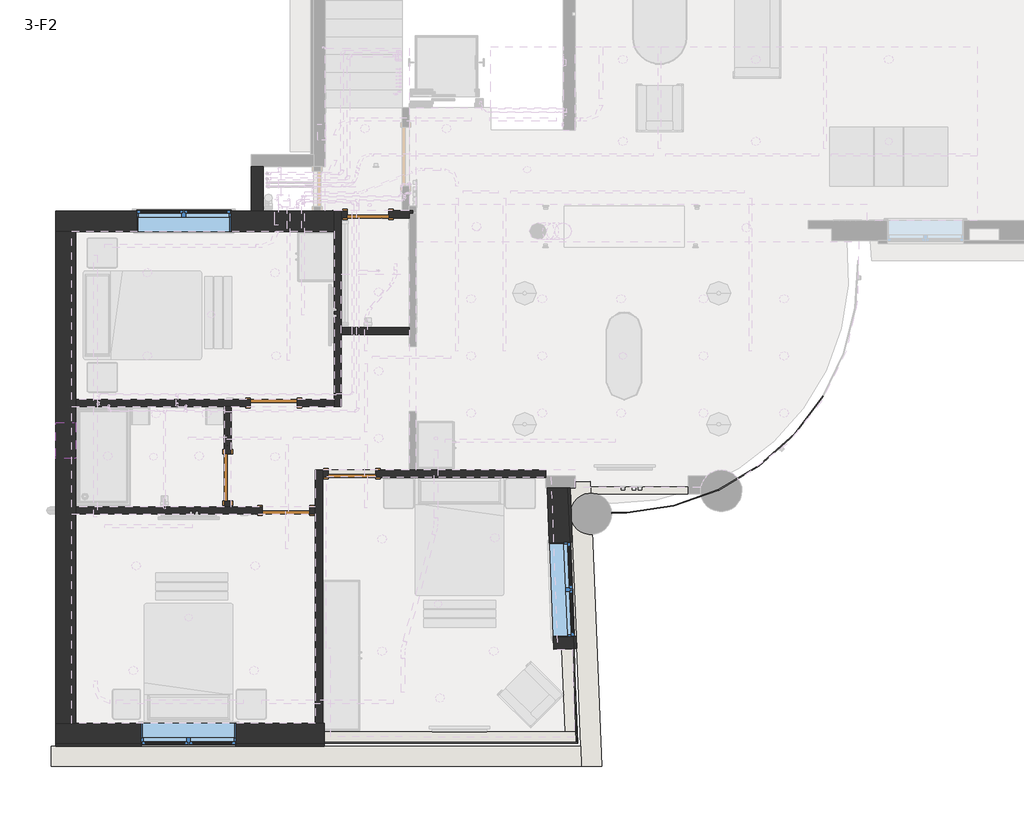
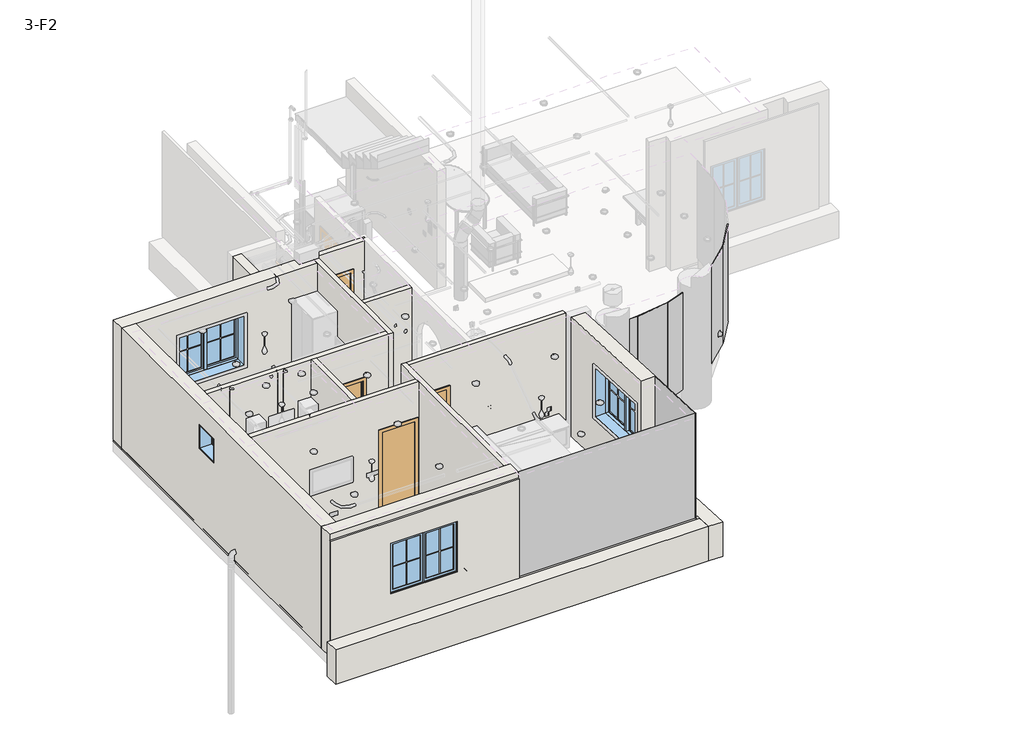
# One storey, part 1 of 12: 20 walls, 8 plates, 5 doors, 4 windows.
"""IFC4 building model written with IfcOpenShell, lengths in millimetres."""

from ifc_helpers import new_model, si_unit, frame, origin, place, context, project, spatial, polyline, circle_curve, outline, extrude, faceted_brep, transform, mapped, element, save
from ifc_brep_helpers import plane_surface, cylinder_surface, advanced_brep
from components import m_single_flush_0700x_2400_7219f577, m_single_flush_0800x_2134mm_6a6e6414, m_single_flush_0800x_2134mm_a76977ee, system_panel_glazed_f5efb3f4, system_panel_glazed_7791b898, system_panel_glazed_ef369acb, system_panel_glazed_fcb7b072, m_fixed_0610_x_0610mm_aedfc229, m_window_casement_double_1600_x_1300mm_8a1cf402

model = new_model("IFC4")

# Units and contexts
model_context = context("Model", 3, world=origin())
ifc_project = project(units=[si_unit("LENGTHUNIT", "METRE", prefix="MILLI")], contexts=[model_context])

# Site, building, storey
site = spatial("IfcSite", under=ifc_project)
building = spatial("IfcBuilding", under=site)
storey = spatial("IfcBuildingStorey", under=building, Name="3-F2", Elevation=6550.0)

# Doors
placement = place(None, origin())
m_single_flush_0700x_2400_shape = m_single_flush_0700x_2400_7219f577(model_context)
element("IfcDoor", 1, ObjectType="M_Single-Flush : 0700x 2400", at=placement, inside=storey, context=model_context, shape_type="MappedRepresentation", body=[
    mapped(m_single_flush_0700x_2400_shape, transform((-4137.4765921, 3274.4560655, 6550.0), x_axis=(-1.0, 0.0, 0.0), y_axis=(0.0, -1.0, 0.0), z_axis=(0.0, 0.0, 1.0))),
])
m_single_flush_0800x_2134mm_shape = m_single_flush_0800x_2134mm_6a6e6414(model_context)
element("IfcDoor", 2, ObjectType="M_Single-Flush : 0800x 2134mm", at=placement, inside=storey, context=model_context, shape_type="MappedRepresentation", body=[
    mapped(m_single_flush_0800x_2134mm_shape, transform((-5732.2814219, 80.1275048, 6550.0), x_axis=(1.0, 0.0, 0.0), y_axis=(0.0, 1.0, 0.0), z_axis=(0.0, 0.0, 1.0))),
])
element("IfcDoor", 3, ObjectType="M_Single-Flush : 0800x 2134mm", at=placement, inside=storey, context=model_context, shape_type="MappedRepresentation", body=[
    mapped(m_single_flush_0800x_2134mm_shape, transform((-4405.4457195, -1117.1632352, 6600.0), x_axis=(-1.0, 0.0, 0.0), y_axis=(0.0, -1.0, 0.0), z_axis=(0.0, 0.0, 1.0))),
])
m_single_flush_0800x_2134mm_2_shape = m_single_flush_0800x_2134mm_a76977ee(model_context)
element("IfcDoor", 4, ObjectType="M_Single-Flush : 0800x 2134mm", at=placement, inside=storey, context=model_context, shape_type="MappedRepresentation", body=[
    mapped(m_single_flush_0800x_2134mm_2_shape, transform((-5525.4457195, -1739.8724951, 6550.0), x_axis=(1.0, 0.0, 0.0), y_axis=(0.0, 1.0, 0.0), z_axis=(0.0, 0.0, 1.0))),
])
element("IfcDoor", 5, ObjectType="M_Single-Flush : 0800x 2134mm", at=placement, inside=storey, context=model_context, shape_type="MappedRepresentation", body=[
    mapped(m_single_flush_0800x_2134mm_2_shape, transform((-6509.7814219, -1179.8724951, 6550.0), x_axis=(0.0, -1.0, 0.0), y_axis=(1.0, 0.0, 0.0), z_axis=(0.0, 0.0, 1.0))),
])

# Plates
system_panel_glazed_shape = system_panel_glazed_f5efb3f4(model_context)
element("IfcPlate", 6, ObjectType="System Panel : Glazed", at=placement, inside=storey, context=model_context, shape_type="MappedRepresentation", body=[
    mapped(system_panel_glazed_shape, transform((3312.4238011, -119.0628535, 6980.0), x_axis=(-0.6003448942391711, -0.7997412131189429, 0.0), y_axis=(0.7997412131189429, -0.6003448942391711, 0.0), z_axis=(0.0, 0.0, 1.0))),
])
element("IfcPlate", 7, ObjectType="System Panel : Glazed", at=placement, inside=storey, context=model_context, shape_type="MappedRepresentation", body=[
    mapped(system_panel_glazed_shape, transform((2774.7211477, -706.2704906, 6980.0), x_axis=(-0.7439117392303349, -0.6682778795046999, 0.0), y_axis=(0.6682778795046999, -0.7439117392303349, 0.0), z_axis=(0.0, 0.0, 1.0))),
])
element("IfcPlate", 8, ObjectType="System Panel : Glazed", at=placement, inside=storey, context=model_context, shape_type="MappedRepresentation", body=[
    mapped(system_panel_glazed_shape, transform((2133.4409489, -1178.1779594, 6980.0), x_axis=(-0.8592887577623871, -0.5114907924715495, 0.0), y_axis=(0.5114907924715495, -0.8592887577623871, 0.0), z_axis=(0.0, 0.0, 1.0))),
])
element("IfcPlate", 9, ObjectType="System Panel : Glazed", at=placement, inside=storey, context=model_context, shape_type="MappedRepresentation", body=[
    mapped(system_panel_glazed_shape, transform((1412.8839068, -1516.9027761, 6980.0), x_axis=(-0.9421038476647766, -0.3353212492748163, 0.0), y_axis=(0.3353212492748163, -0.9421038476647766, 0.0), z_axis=(0.0, 0.0, 1.0))),
])
element("IfcPlate", 10, ObjectType="System Panel : Glazed", at=placement, inside=storey, context=model_context, shape_type="MappedRepresentation", body=[
    mapped(system_panel_glazed_shape, transform((640.3548437, -1709.6092865, 6980.0), x_axis=(-0.9892188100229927, -0.14644502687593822, 0.0), y_axis=(0.14644502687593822, -0.9892188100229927, 0.0), z_axis=(0.0, 0.0, 1.0))),
])
system_panel_glazed_2_shape = system_panel_glazed_7791b898(model_context)
element("IfcPlate", 11, ObjectType="System Panel : Glazed", at=placement, inside=storey, context=model_context, shape_type="MappedRepresentation", body=[
    mapped(system_panel_glazed_2_shape, transform((115.9480298, -1770.5245484, 6980.0), x_axis=(-0.9998351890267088, -0.01815474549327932, 0.0), y_axis=(0.01815474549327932, -0.9998351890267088, 0.0), z_axis=(0.0, 0.0, 1.0))),
])
system_panel_glazed_3_shape = system_panel_glazed_ef369acb(model_context)
element("IfcPlate", 12, ObjectType="System Panel : Glazed", at=placement, inside=storey, context=model_context, shape_type="MappedRepresentation", body=[
    mapped(system_panel_glazed_3_shape, transform((-2736.9114959, -5684.0873245, 6980.0), x_axis=(1.0, 0.0, 0.0), y_axis=(0.0, 1.0, 0.0), z_axis=(0.0, 0.0, 1.0))),
])
system_panel_glazed_4_shape = system_panel_glazed_fcb7b072(model_context)
element("IfcPlate", 13, ObjectType="System Panel : Glazed", at=placement, inside=storey, context=model_context, shape_type="MappedRepresentation", body=[
    mapped(system_panel_glazed_4_shape, transform((-621.2194758, -4881.8145595, 6980.0), x_axis=(-0.02846033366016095, 0.9995949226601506, 0.0), y_axis=(-0.9995949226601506, -0.02846033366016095, 0.0), z_axis=(0.0, 0.0, 1.0))),
])

# Walls
element("IfcWall", 14, ObjectType="34cm", at=placement, inside=storey, context=model_context, shape_type="Brep", body=[
    faceted_brep([(-4707.4765921, 3326.4863231, 6550.0), (-4937.4765921, 3326.4863231, 6550.0), (-5057.4765921, 3326.4863231, 6550.0), (-9417.4765921, 3326.4863231, 6550.0), (-9417.4765921, 3326.4863231, 9650.0), (-5057.4765921, 3326.4863231, 9650.0), (-4937.4765921, 3326.4863231, 9650.0), (-4707.4765921, 3326.4863231, 9650.0), (-6453.1495072, 3326.4863231, 8950.0), (-8053.1495072, 3326.4863231, 8950.0), (-8053.1495072, 3326.4863231, 7660.0), (-6453.1495072, 3326.4863231, 7660.0), (-4707.4765921, 2986.4863231, 6550.0), (-4707.4765921, 2986.4863231, 9650.0), (-9077.4765921, 2986.4863231, 9650.0), (-9417.4765921, 2986.4863231, 9650.0), (-9417.4765921, 2986.4863231, 6550.0), (-9077.4765921, 2986.4863231, 6550.0), (-6453.1495072, 2986.4863231, 8950.0), (-6453.1495072, 2986.4863231, 7660.0), (-8053.1495072, 2986.4863231, 7660.0), (-8053.1495072, 2986.4863231, 8950.0)], [[[0, 1, 2, 3, 4, 5, 6, 7], [8, 9, 10, 11]], [[12, 13, 14, 15, 16, 17], [18, 19, 20, 21]], [[3, 2, 1, 0, 12, 17, 16]], [[7, 6, 5, 4, 15, 14, 13]], [[0, 7, 13, 12]], [[18, 21, 9, 8]], [[21, 20, 10, 9]], [[20, 19, 11, 10]], [[19, 18, 8, 11]], [[4, 3, 16, 15]]]),
])
element("IfcWall", 15, ObjectType="34cm", at=placement, inside=storey, context=model_context, shape_type="Brep", body=[
    faceted_brep([(-652.9165886, -4079.8954804, 9650.0), (-652.9165886, -4079.8954804, 9450.0), (-652.9165886, -4079.8954804, 6980.0), (-652.9165886, -4079.8954804, 6550.0), (-761.6689188, -1357.1632352, 6550.0), (-761.6689188, -1357.1632352, 9650.0), (-661.0995249, -3875.0268177, 7660.0), (-661.0995249, -3875.0268177, 8950.0), (-724.9563703, -2276.3016058, 8950.0), (-724.9563703, -2276.3016058, 7660.0), (-992.6456961, -4093.46506, 6550.0), (-992.6456961, -4093.46506, 9650.0), (-1101.9400272, -1357.1632352, 9650.0), (-1101.9400272, -1357.1632352, 6550.0), (-1000.8286324, -3888.5963973, 8950.0), (-1000.8286324, -3888.5963973, 7660.0), (-1064.6854778, -2289.8711854, 7660.0), (-1064.6854778, -2289.8711854, 8950.0), (-852.7572401, -4087.8775861, 6550.0)], [[[0, 1, 2, 3, 4, 5], [6, 7, 8, 9]], [[10, 11, 12, 13], [14, 15, 16, 17]], [[3, 18, 10, 13, 4]], [[11, 0, 5, 12]], [[3, 2, 1, 0, 11, 10, 18]], [[15, 14, 7, 6]], [[16, 15, 6, 9]], [[17, 16, 9, 8]], [[14, 17, 8, 7]], [[5, 4, 13, 12]]]),
])
element("IfcWall", 16, ObjectType="34cm", at=placement, inside=storey, context=model_context, shape_type="Brep", body=[
    faceted_brep([(-9417.4765921, -5684.0873245, 6550.0), (-4875.4457195, -5684.0873245, 6550.0), (-4875.4457195, -5684.0873245, 9507.0), (-4875.4457195, -5684.0873245, 9650.0), (-9417.4765921, -5684.0873245, 9650.0), (-9417.4765921, -5684.0873245, 9507.0), (-7971.1184738, -5684.0873245, 7660.0), (-7971.1184738, -5684.0873245, 8950.0), (-6371.1184738, -5684.0873245, 8950.0), (-6371.1184738, -5684.0873245, 7660.0), (-4875.4457195, -5344.0873245, 6550.0), (-9077.4765921, -5344.0873245, 6550.0), (-9417.4765921, -5344.0873245, 6550.0), (-9417.4765921, -5344.0873245, 9650.0), (-9077.4765921, -5344.0873245, 9650.0), (-4875.4457195, -5344.0873245, 9650.0), (-7971.1184738, -5344.0873245, 8950.0), (-7971.1184738, -5344.0873245, 7660.0), (-6371.1184738, -5344.0873245, 7660.0), (-6371.1184738, -5344.0873245, 8950.0), (-5945.4457195, -5344.0873245, 7320.0), (-5945.4457195, -5344.0873245, 7380.0), (-6005.4457195, -5344.0873245, 7380.0), (-6005.4457195, -5344.0873245, 7320.0), (-8295.704747, -5344.0873245, 6970.0), (-8295.704747, -5344.0873245, 7030.0), (-8355.704747, -5344.0873245, 7030.0), (-8355.704747, -5344.0873245, 6970.0), (-6042.4765921, -5344.0873245, 7320.0), (-6042.4765921, -5344.0873245, 7380.0), (-6102.4765921, -5344.0873245, 7380.0), (-6102.4765921, -5344.0873245, 7320.0), (-6059.7814219, -5344.0873245, 7220.0), (-6059.7814219, -5344.0873245, 7280.0), (-6119.7814219, -5344.0873245, 7280.0), (-6119.7814219, -5344.0873245, 7220.0), (-4875.4457195, -5484.0873245, 6550.0), (-5945.4457195, -5394.0873245, 7320.0), (-6005.4457195, -5394.0873245, 7320.0), (-6005.4457195, -5394.0873245, 7380.0), (-5945.4457195, -5394.0873245, 7380.0), (-8295.704747, -5394.0873245, 6970.0), (-8355.704747, -5394.0873245, 6970.0), (-8355.704747, -5394.0873245, 7030.0), (-8295.704747, -5394.0873245, 7030.0), (-6042.4765921, -5394.0873245, 7320.0), (-6102.4765921, -5394.0873245, 7320.0), (-6102.4765921, -5394.0873245, 7380.0), (-6042.4765921, -5394.0873245, 7380.0), (-6059.7814219, -5394.0873245, 7220.0), (-6119.7814219, -5394.0873245, 7220.0), (-6119.7814219, -5394.0873245, 7280.0), (-6059.7814219, -5394.0873245, 7280.0)], [[[0, 1, 2, 3, 4, 5], [6, 7, 8, 9]], [[10, 11, 12, 13, 14, 15], [16, 17, 18, 19], [20, 21, 22, 23], [24, 25, 26, 27], [28, 29, 30, 31], [32, 33, 34, 35]], [[1, 0, 12, 11, 10, 36]], [[3, 2, 1, 36, 10, 15]], [[4, 3, 15, 14, 13]], [[17, 16, 7, 6]], [[18, 17, 6, 9]], [[19, 18, 9, 8]], [[16, 19, 8, 7]], [[37, 38, 39, 40]], [[37, 40, 21, 20]], [[40, 39, 22, 21]], [[39, 38, 23, 22]], [[38, 37, 20, 23]], [[41, 42, 43, 44]], [[41, 44, 25, 24]], [[44, 43, 26, 25]], [[43, 42, 27, 26]], [[42, 41, 24, 27]], [[45, 46, 47, 48]], [[45, 48, 29, 28]], [[48, 47, 30, 29]], [[47, 46, 31, 30]], [[46, 45, 28, 31]], [[49, 50, 51, 52]], [[49, 52, 33, 32]], [[52, 51, 34, 33]], [[51, 50, 35, 34]], [[50, 49, 32, 35]], [[0, 5, 4, 13, 12]]]),
])
element("IfcWall", 17, ObjectType="34cm", at=placement, inside=storey, context=model_context, shape_type="SweptSolid", body=[
    extrude(outline(polyline([(2986.4863231, 6550.0), (-5344.0873245, 6550.0), (-5344.0873245, 9650.0), (2986.4863231, 9650.0), (2986.4863231, 6550.0)]), holes=[polyline([(-250.6629275, 8550.0), (-250.6629275, 9160.0), (-860.6629275, 9160.0), (-860.6629275, 8550.0), (-250.6629275, 8550.0)])]), frame((-9417.4765921, 0.0, 0.0), z_axis=(1.0, 0.0, 0.0), x_axis=(0.0, 1.0, 0.0)), (0.0, 0.0, 1.0), 340.0),
])
element("IfcWall", 18, ObjectType="Generic - 200 balcony", at=placement, inside=storey, context=model_context, shape_type="Brep", body=[
    faceted_brep([(-596.8298635, -5484.0873245, 6550.0), (-796.989339, -5484.0873245, 6550.0), (-4875.4457195, -5484.0873245, 6550.0), (-4875.4457195, -5484.0873245, 6980.0), (-796.989339, -5484.0873245, 6980.0), (-596.8298635, -5484.0873245, 6980.0), (-2492.6151583, -5484.0873245, 6820.0), (-2492.6151583, -5484.0873245, 6880.0), (-2552.6151583, -5484.0873245, 6880.0), (-2552.6151583, -5484.0873245, 6820.0), (-2701.9457195, -5484.0873245, 6820.0), (-2701.9457195, -5484.0873245, 6880.0), (-2761.9457195, -5484.0873245, 6880.0), (-2761.9457195, -5484.0873245, 6820.0), (-2390.4457195, -5484.0873245, 6820.0), (-2390.4457195, -5484.0873245, 6880.0), (-2450.4457195, -5484.0873245, 6880.0), (-2450.4457195, -5484.0873245, 6820.0), (-4875.4457195, -5684.0873245, 6550.0), (-588.841393, -5684.0873245, 6550.0), (-588.841393, -5684.0873245, 6980.0), (-4875.4457195, -5684.0873245, 6980.0), (-2492.6151583, -5534.0873245, 6820.0), (-2552.6151583, -5534.0873245, 6820.0), (-2552.6151583, -5534.0873245, 6880.0), (-2492.6151583, -5534.0873245, 6880.0), (-2701.9457195, -5534.0873245, 6820.0), (-2761.9457195, -5534.0873245, 6820.0), (-2761.9457195, -5534.0873245, 6880.0), (-2701.9457195, -5534.0873245, 6880.0), (-2390.4457195, -5534.0873245, 6820.0), (-2450.4457195, -5534.0873245, 6820.0), (-2450.4457195, -5534.0873245, 6880.0), (-2390.4457195, -5534.0873245, 6880.0)], [[[0, 1, 2, 3, 4, 5], [6, 7, 8, 9], [10, 11, 12, 13], [14, 15, 16, 17]], [[18, 19, 20, 21]], [[2, 1, 0, 19, 18]], [[3, 2, 18, 21]], [[5, 4, 3, 21, 20]], [[22, 23, 24, 25]], [[22, 25, 7, 6]], [[25, 24, 8, 7]], [[24, 23, 9, 8]], [[23, 22, 6, 9]], [[26, 27, 28, 29]], [[26, 29, 11, 10]], [[29, 28, 12, 11]], [[28, 27, 13, 12]], [[27, 26, 10, 13]], [[30, 31, 32, 33]], [[30, 33, 15, 14]], [[33, 32, 16, 15]], [[32, 31, 17, 16]], [[31, 30, 14, 17]], [[0, 5, 20, 19]]]),
])
element("IfcWall", 19, ObjectType="Generic - 200 balcony", at=placement, inside=storey, context=model_context, shape_type="SweptSolid", body=[
    extrude(outline(polyline([(-652.9165886, -4079.8954804), (-596.8298635, -5484.0873245), (-796.989339, -5484.0873245), (-852.7572401, -4087.8775861), (-652.9165886, -4079.8954804)])), frame((0.0, 0.0, 6550.0), z_axis=(0.0, 0.0, 1.0), x_axis=(1.0, 0.0, 0.0)), (0.0, 0.0, 1.0), 430.0),
])
element("IfcWall", 20, ObjectType="Generic - 200mm", at=placement, inside=storey, context=model_context, shape_type="SweptSolid", body=[
    extrude(outline(polyline([(-6107.4765921, 3326.4863231), (-6107.4765921, 4084.4560655), (-5907.4765921, 4084.4560655), (-5907.4765921, 3326.4863231), (-6107.4765921, 3326.4863231)])), frame((0.0, 0.0, 6550.0), z_axis=(0.0, 0.0, 1.0), x_axis=(1.0, 0.0, 0.0)), (0.0, 0.0, 1.0), 3100.0),
])
element("IfcWall", 21, ObjectType="Generic -120mm", at=placement, inside=storey, context=model_context, shape_type="AdvancedBrep", body=[
    advanced_brep(
    [(1641.0946891, -1340.2773764, 6550.0), (-734.9269041, -1340.2773764, 6550.0), (-734.9269041, -1340.2773764, 6980.0), (148.5234079, -1340.2773764, 6980.0), (148.5234079, -1340.2773764, 6970.0), (208.5234079, -1340.2773764, 6970.0), (208.5234079, -1340.2773764, 6980.0), (336.5234079, -1340.2773764, 6980.0), (336.5234079, -1340.2773764, 6970.0), (396.5234079, -1340.2773764, 6970.0), (396.5234079, -1340.2773764, 6980.0), (434.0164993, -1340.2773764, 6980.0), (434.0164993, -1340.2773764, 6970.0), (494.0164993, -1340.2773764, 6970.0), (494.0164993, -1340.2773764, 6980.0), (1641.0946891, -1340.2773764, 6980.0), (-734.9269041, -1460.2773764, 6550.0), (1330.6746953, -1460.2773764, 6550.0), (1330.6746953, -1460.2773764, 6980.0), (-734.9269041, -1460.2773764, 6980.0), (494.0164993, -1390.2773764, 6980.0), (434.0164993, -1390.2773764, 6980.0), (396.5234079, -1390.2773764, 6980.0), (336.5234079, -1390.2773764, 6980.0), (208.5234079, -1390.2773764, 6980.0), (148.5234079, -1390.2773764, 6980.0), (396.5234079, -1390.2773764, 6970.0), (336.5234079, -1390.2773764, 6970.0), (494.0164993, -1390.2773764, 6970.0), (434.0164993, -1390.2773764, 6970.0), (208.5234079, -1390.2773764, 6970.0), (148.5234079, -1390.2773764, 6970.0)],
    [
        (0, 1),
        (1, 2),
        (2, 3),
        (3, 4),
        (4, 5),
        (5, 6),
        (6, 7),
        (7, 8),
        (8, 9),
        (9, 10),
        (10, 11),
        (11, 12),
        (12, 13),
        (13, 14),
        (14, 15),
        (15, 0),
        (16, 17),
        (17, 18),
        (18, 19),
        (19, 16),
        (0, 17, circle_curve(frame((41.375057, 2336.428223, 6550.0), z_axis=(0.0, 0.0, -1.0), x_axis=(1.0, 0.0, 0.0)), 4009.6467383)),
        (16, 1),
        (19, 2),
        (18, 15, circle_curve(frame((41.375057, 2336.428223, 6980.0), z_axis=(0.0, 0.0, 1.0), x_axis=(1.0, 0.0, 0.0)), 4009.6467383)),
        (14, 20),
        (20, 21),
        (21, 11),
        (10, 22),
        (22, 23),
        (23, 7),
        (6, 24),
        (24, 25),
        (25, 3),
        (26, 27),
        (27, 23),
        (22, 26),
        (9, 26),
        (27, 8),
        (28, 29),
        (29, 21),
        (20, 28),
        (13, 28),
        (29, 12),
        (30, 31),
        (31, 25),
        (24, 30),
        (5, 30),
        (31, 4),
    ],
    [
        plane_surface(frame((1491.7328564, -1340.2773764, 6550.0), z_axis=(0.0, 1.0, 0.0), x_axis=(-1.0, 0.0, 0.0))),
        plane_surface(frame((1491.7328564, -1460.2773764, 6550.0), z_axis=(0.0, -1.0, 0.0), x_axis=(1.0, 0.0, 0.0))),
        plane_surface(frame((1913.9343005, -1340.2773764, 6550.0), z_axis=(0.0, 0.0, -1.0), x_axis=(0.0, -1.0, 0.0))),
        plane_surface(frame((-734.9269041, -1340.2773764, 6550.0), z_axis=(-1.0, 0.0, 0.0), x_axis=(0.0, -1.0, 0.0))),
        plane_surface(frame((-734.9269041, -1340.2773764, 6980.0), z_axis=(0.0, 0.0, 1.0), x_axis=(0.0, -1.0, 0.0))),
        plane_surface(frame((396.5234079, -1390.2773764, 6970.0), z_axis=(0.0, 1.0, 0.0), x_axis=(0.0, 0.0, 1.0))),
        plane_surface(frame((396.5234079, -1390.2773764, 6970.0), z_axis=(-1.0, 0.0, 0.0), x_axis=(0.0, 1.0, 0.0))),
        plane_surface(frame((336.5234079, -1390.2773764, 7030.0), z_axis=(1.0, 0.0, 0.0), x_axis=(0.0, 1.0, 0.0))),
        plane_surface(frame((336.5234079, -1390.2773764, 6970.0), z_axis=(0.0, 0.0, 1.0), x_axis=(0.0, 1.0, 0.0))),
        plane_surface(frame((494.0164993, -1390.2773764, 6970.0), z_axis=(0.0, 1.0, 0.0), x_axis=(0.0, 0.0, 1.0))),
        plane_surface(frame((494.0164993, -1390.2773764, 6970.0), z_axis=(-1.0, 0.0, 0.0), x_axis=(0.0, 1.0, 0.0))),
        plane_surface(frame((434.0164993, -1390.2773764, 7030.0), z_axis=(1.0, 0.0, 0.0), x_axis=(0.0, 1.0, 0.0))),
        plane_surface(frame((434.0164993, -1390.2773764, 6970.0), z_axis=(0.0, 0.0, 1.0), x_axis=(0.0, 1.0, 0.0))),
        plane_surface(frame((208.5234079, -1390.2773764, 6970.0), z_axis=(0.0, 1.0, 0.0), x_axis=(0.0, 0.0, 1.0))),
        plane_surface(frame((208.5234079, -1390.2773764, 6970.0), z_axis=(-1.0, 0.0, 0.0), x_axis=(0.0, 1.0, 0.0))),
        plane_surface(frame((148.5234079, -1390.2773764, 7030.0), z_axis=(1.0, 0.0, 0.0), x_axis=(0.0, 1.0, 0.0))),
        plane_surface(frame((148.5234079, -1390.2773764, 6970.0), z_axis=(0.0, 0.0, 1.0), x_axis=(0.0, 1.0, 0.0))),
        cylinder_surface(frame((41.375057, 2336.428223, 6100.0), z_axis=(0.0, 0.0, -1.0), x_axis=(1.0, 0.0, 0.0)), 4009.6467383),
    ],
    [
        (0, [[1, 2, 3, 4, 5, 6, 7, 8, 9, 10, 11, 12, 13, 14, 15, 16]]),
        (1, [[17, 18, 19, 20]]),
        (2, [[-1, 21, -17, 22]]),
        (3, [[-2, -22, -20, 23]]),
        (4, [[-19, 24, -15, 25, 26, 27, -11, 28, 29, 30, -7, 31, 32, 33, -3, -23]]),
        (5, [[34, 35, -29, 36]]),
        (6, [[37, -36, -28, -10]]),
        (7, [[38, -8, -30, -35]]),
        (8, [[-34, -37, -9, -38]]),
        (9, [[39, 40, -26, 41]]),
        (10, [[42, -41, -25, -14]]),
        (11, [[43, -12, -27, -40]]),
        (12, [[-39, -42, -13, -43]]),
        (13, [[44, 45, -32, 46]]),
        (14, [[47, -46, -31, -6]]),
        (15, [[48, -4, -33, -45]]),
        (16, [[-44, -47, -5, -48]]),
        (17, [[-16, -24, -18, -21]]),
    ],
),
])
element("IfcWall", 22, ObjectType="Generic -120mm", at=placement, inside=storey, context=model_context, shape_type="Brep", body=[
    faceted_brep([(-4707.4765921, 3326.4863231, 6550.0), (-4707.4765921, 2986.4863231, 6550.0), (-4707.4765921, 140.1275048, 6550.0), (-4707.4765921, 20.1275048, 6550.0), (-4707.4765921, 20.1275048, 9650.0), (-4707.4765921, 140.1275048, 9650.0), (-4707.4765921, 2986.4863231, 9650.0), (-4707.4765921, 3326.4863231, 9650.0), (-4707.4765921, 1690.1275048, 6970.0), (-4707.4765921, 1690.1275048, 7030.0), (-4707.4765921, 1630.1275048, 7030.0), (-4707.4765921, 1630.1275048, 6970.0), (-4707.4765921, 1523.8775048, 7780.0), (-4707.4765921, 1523.8775048, 7720.0), (-4707.4765921, 1583.8775048, 7720.0), (-4707.4765921, 1583.8775048, 7780.0), (-4707.4765921, 1583.3775048, 6970.0), (-4707.4765921, 1583.3775048, 7030.0), (-4707.4765921, 1523.3775048, 7030.0), (-4707.4765921, 1523.3775048, 6970.0), (-4707.4765921, 1690.1275048, 7720.0), (-4707.4765921, 1690.1275048, 7780.0), (-4707.4765921, 1630.1275048, 7780.0), (-4707.4765921, 1630.1275048, 7720.0), (-4587.4765921, 20.1275048, 6550.0), (-4587.4765921, 1240.1275048, 6550.0), (-4587.4765921, 1360.1275048, 6550.0), (-4587.4765921, 3326.4863231, 6550.0), (-4587.4765921, 3326.4863231, 9650.0), (-4587.4765921, 1360.1275048, 9650.0), (-4587.4765921, 1240.1275048, 9650.0), (-4587.4765921, 20.1275048, 9650.0), (-4657.4765921, 1690.1275048, 6970.0), (-4657.4765921, 1630.1275048, 6970.0), (-4657.4765921, 1630.1275048, 7030.0), (-4657.4765921, 1690.1275048, 7030.0), (-4657.4765921, 1523.8775048, 7720.0), (-4657.4765921, 1523.8775048, 7780.0), (-4657.4765921, 1583.8775048, 7780.0), (-4657.4765921, 1583.8775048, 7720.0), (-4657.4765921, 1583.3775048, 6970.0), (-4657.4765921, 1523.3775048, 6970.0), (-4657.4765921, 1523.3775048, 7030.0), (-4657.4765921, 1583.3775048, 7030.0), (-4657.4765921, 1690.1275048, 7720.0), (-4657.4765921, 1630.1275048, 7720.0), (-4657.4765921, 1630.1275048, 7780.0), (-4657.4765921, 1690.1275048, 7780.0)], [[[0, 1, 2, 3, 4, 5, 6, 7], [8, 9, 10, 11], [12, 13, 14, 15], [16, 17, 18, 19], [20, 21, 22, 23]], [[24, 25, 26, 27, 28, 29, 30, 31]], [[3, 2, 1, 0, 27, 26, 25, 24]], [[7, 6, 5, 4, 31, 30, 29, 28]], [[0, 7, 28, 27]], [[4, 3, 24, 31]], [[32, 33, 34, 35]], [[32, 35, 9, 8]], [[35, 34, 10, 9]], [[34, 33, 11, 10]], [[33, 32, 8, 11]], [[36, 37, 38, 39]], [[37, 36, 13, 12]], [[38, 37, 12, 15]], [[39, 38, 15, 14]], [[36, 39, 14, 13]], [[40, 41, 42, 43]], [[40, 43, 17, 16]], [[43, 42, 18, 17]], [[42, 41, 19, 18]], [[41, 40, 16, 19]], [[44, 45, 46, 47]], [[44, 47, 21, 20]], [[47, 46, 22, 21]], [[46, 45, 23, 22]], [[45, 44, 20, 23]]]),
])
element("IfcWall", 23, ObjectType="Generic -120mm", at=placement, inside=storey, context=model_context, shape_type="Brep", body=[
    faceted_brep([(-9077.4765921, 140.1275048, 6550.0), (-9077.4765921, 140.1275048, 9650.0), (-4707.4765921, 140.1275048, 9650.0), (-4707.4765921, 140.1275048, 6550.0), (-5332.2814219, 140.1275048, 6550.0), (-5332.2814219, 140.1275048, 8684.0), (-6132.2814219, 140.1275048, 8684.0), (-6132.2814219, 140.1275048, 6550.0), (-6339.7814219, 140.1275048, 7670.0), (-6339.7814219, 140.1275048, 7730.0), (-6399.7814219, 140.1275048, 7730.0), (-6399.7814219, 140.1275048, 7670.0), (-6259.7814219, 140.1275048, 7670.0), (-6259.7814219, 140.1275048, 7730.0), (-6319.7814219, 140.1275048, 7730.0), (-6319.7814219, 140.1275048, 7670.0), (-9077.4765921, 20.1275048, 9650.0), (-9077.4765921, 20.1275048, 6550.0), (-6132.2814219, 20.1275048, 6550.0), (-6132.2814219, 20.1275048, 8684.0), (-5332.2814219, 20.1275048, 8684.0), (-5332.2814219, 20.1275048, 6550.0), (-4707.4765921, 20.1275048, 6550.0), (-4707.4765921, 20.1275048, 9650.0), (-6449.7814219, 20.1275048, 9650.0), (-6569.7814219, 20.1275048, 9650.0), (-6939.7814219, 20.1275048, 7620.0), (-6939.7814219, 20.1275048, 7680.0), (-6879.7814219, 20.1275048, 7680.0), (-6879.7814219, 20.1275048, 7620.0), (-7650.0, 20.1275048, 7680.0), (-7650.0, 20.1275048, 7620.0), (-7710.0, 20.1275048, 7620.0), (-7710.0, 20.1275048, 7680.0), (-4895.4457195, 20.1275048, 6970.0), (-4895.4457195, 20.1275048, 7030.0), (-4835.4457195, 20.1275048, 7030.0), (-4835.4457195, 20.1275048, 6970.0), (-6339.7814219, 90.1275048, 7670.0), (-6399.7814219, 90.1275048, 7670.0), (-6399.7814219, 90.1275048, 7730.0), (-6339.7814219, 90.1275048, 7730.0), (-6939.7814219, 70.1275048, 7620.0), (-6879.7814219, 70.1275048, 7620.0), (-6879.7814219, 70.1275048, 7680.0), (-6939.7814219, 70.1275048, 7680.0), (-7650.0, 70.1275048, 7620.0), (-7650.0, 70.1275048, 7680.0), (-7710.0, 70.1275048, 7680.0), (-7710.0, 70.1275048, 7620.0), (-4895.4457195, 70.1275048, 6970.0), (-4835.4457195, 70.1275048, 6970.0), (-4835.4457195, 70.1275048, 7030.0), (-4895.4457195, 70.1275048, 7030.0), (-6259.7814219, 90.1275048, 7670.0), (-6319.7814219, 90.1275048, 7670.0), (-6319.7814219, 90.1275048, 7730.0), (-6259.7814219, 90.1275048, 7730.0)], [[[0, 1, 2, 3, 4, 5, 6, 7], [8, 9, 10, 11], [12, 13, 14, 15]], [[16, 17, 18, 19, 20, 21, 22, 23, 24, 25], [26, 27, 28, 29], [30, 31, 32, 33], [34, 35, 36, 37]], [[17, 0, 7, 18]], [[3, 22, 21, 4]], [[1, 0, 17, 16]], [[2, 1, 16, 25, 24, 23]], [[3, 2, 23, 22]], [[5, 4, 21, 20]], [[6, 5, 20, 19]], [[7, 6, 19, 18]], [[38, 39, 40, 41]], [[38, 41, 9, 8]], [[41, 40, 10, 9]], [[40, 39, 11, 10]], [[39, 38, 8, 11]], [[42, 43, 44, 45]], [[42, 45, 27, 26]], [[45, 44, 28, 27]], [[44, 43, 29, 28]], [[43, 42, 26, 29]], [[46, 47, 48, 49]], [[47, 46, 31, 30]], [[48, 47, 30, 33]], [[49, 48, 33, 32]], [[46, 49, 32, 31]], [[50, 51, 52, 53]], [[50, 53, 35, 34]], [[53, 52, 36, 35]], [[52, 51, 37, 36]], [[51, 50, 34, 37]], [[54, 55, 56, 57]], [[54, 57, 13, 12]], [[57, 56, 14, 13]], [[56, 55, 15, 14]], [[55, 54, 12, 15]]]),
])
element("IfcWall", 24, ObjectType="Generic -120mm", at=placement, inside=storey, context=model_context, shape_type="Brep", body=[
    faceted_brep([(-5025.4457195, -1057.1632352, 6550.0), (-5025.4457195, -1679.8724951, 6550.0), (-5025.4457195, -1799.8724951, 6550.0), (-5025.4457195, -5344.0873245, 6550.0), (-5025.4457195, -5344.0873245, 9650.0), (-5025.4457195, -1799.8724951, 9650.0), (-5025.4457195, -1679.8724951, 9650.0), (-5025.4457195, -1057.1632352, 9650.0), (-4905.4457195, -1057.1632352, 6550.0), (-4905.4457195, -1057.1632352, 9650.0), (-4905.4457195, -1177.1632352, 9650.0), (-4905.4457195, -5344.0873245, 9650.0), (-4905.4457195, -5344.0873245, 6550.0), (-4905.4457195, -1177.1632352, 6550.0)], [[[0, 1, 2, 3, 4, 5, 6, 7]], [[8, 9, 10, 11, 12, 13]], [[3, 2, 1, 0, 8, 13, 12]], [[4, 3, 12, 11]], [[7, 6, 5, 4, 11, 10, 9]], [[0, 7, 9, 8]]]),
])
element("IfcWall", 25, ObjectType="Generic -120mm", at=placement, inside=storey, context=model_context, shape_type="Brep", body=[
    faceted_brep([(-5025.4457195, -1799.8724951, 9650.0), (-9077.4765921, -1799.8724951, 9650.0), (-9077.4765921, -1799.8724951, 6550.0), (-5925.4457195, -1799.8724951, 6550.0), (-5925.4457195, -1799.8724951, 8684.0), (-5125.4457195, -1799.8724951, 8684.0), (-5125.4457195, -1799.8724951, 6550.0), (-5025.4457195, -1799.8724951, 6550.0), (-6134.7814219, -1799.8724951, 7670.0), (-6134.7814219, -1799.8724951, 7730.0), (-6074.7814219, -1799.8724951, 7730.0), (-6074.7814219, -1799.8724951, 7670.0), (-7059.7814219, -1799.8724951, 7720.0), (-7059.7814219, -1799.8724951, 7780.0), (-6999.7814219, -1799.8724951, 7780.0), (-6999.7814219, -1799.8724951, 7720.0), (-7159.7814219, -1799.8724951, 7720.0), (-7159.7814219, -1799.8724951, 7780.0), (-7099.7814219, -1799.8724951, 7780.0), (-7099.7814219, -1799.8724951, 7720.0), (-7059.7814219, -1799.8724951, 6970.0), (-7059.7814219, -1799.8724951, 7030.0), (-6999.7814219, -1799.8724951, 7030.0), (-6999.7814219, -1799.8724951, 6970.0), (-7159.7814219, -1799.8724951, 6970.0), (-7159.7814219, -1799.8724951, 7030.0), (-7099.7814219, -1799.8724951, 7030.0), (-7099.7814219, -1799.8724951, 6970.0), (-6059.7814219, -1799.8724951, 7670.0), (-6059.7814219, -1799.8724951, 7730.0), (-5999.7814219, -1799.8724951, 7730.0), (-5999.7814219, -1799.8724951, 7670.0), (-9077.4765921, -1679.8724951, 9650.0), (-6569.7814219, -1679.8724951, 9650.0), (-6449.7814219, -1679.8724951, 9650.0), (-5025.4457195, -1679.8724951, 9650.0), (-5025.4457195, -1679.8724951, 6550.0), (-5125.4457195, -1679.8724951, 6550.0), (-5125.4457195, -1679.8724951, 8684.0), (-5925.4457195, -1679.8724951, 8684.0), (-5925.4457195, -1679.8724951, 6550.0), (-9077.4765921, -1679.8724951, 6550.0), (-6134.7814219, -1749.8724951, 7670.0), (-6074.7814219, -1749.8724951, 7670.0), (-6074.7814219, -1749.8724951, 7730.0), (-6134.7814219, -1749.8724951, 7730.0), (-7059.7814219, -1749.8724951, 7720.0), (-6999.7814219, -1749.8724951, 7720.0), (-6999.7814219, -1749.8724951, 7780.0), (-7059.7814219, -1749.8724951, 7780.0), (-7159.7814219, -1749.8724951, 7720.0), (-7099.7814219, -1749.8724951, 7720.0), (-7099.7814219, -1749.8724951, 7780.0), (-7159.7814219, -1749.8724951, 7780.0), (-7059.7814219, -1749.8724951, 6970.0), (-6999.7814219, -1749.8724951, 6970.0), (-6999.7814219, -1749.8724951, 7030.0), (-7059.7814219, -1749.8724951, 7030.0), (-7159.7814219, -1749.8724951, 6970.0), (-7099.7814219, -1749.8724951, 6970.0), (-7099.7814219, -1749.8724951, 7030.0), (-7159.7814219, -1749.8724951, 7030.0), (-6059.7814219, -1749.8724951, 7670.0), (-5999.7814219, -1749.8724951, 7670.0), (-5999.7814219, -1749.8724951, 7730.0), (-6059.7814219, -1749.8724951, 7730.0)], [[[0, 1, 2, 3, 4, 5, 6, 7], [8, 9, 10, 11], [12, 13, 14, 15], [16, 17, 18, 19], [20, 21, 22, 23], [24, 25, 26, 27], [28, 29, 30, 31]], [[32, 33, 34, 35, 36, 37, 38, 39, 40, 41]], [[2, 41, 40, 3]], [[36, 7, 6, 37]], [[1, 0, 35, 34, 33, 32]], [[2, 1, 32, 41]], [[0, 7, 36, 35]], [[38, 37, 6, 5]], [[39, 38, 5, 4]], [[40, 39, 4, 3]], [[42, 43, 44, 45]], [[42, 45, 9, 8]], [[45, 44, 10, 9]], [[44, 43, 11, 10]], [[43, 42, 8, 11]], [[46, 47, 48, 49]], [[46, 49, 13, 12]], [[49, 48, 14, 13]], [[48, 47, 15, 14]], [[47, 46, 12, 15]], [[50, 51, 52, 53]], [[50, 53, 17, 16]], [[53, 52, 18, 17]], [[52, 51, 19, 18]], [[51, 50, 16, 19]], [[54, 55, 56, 57]], [[54, 57, 21, 20]], [[57, 56, 22, 21]], [[56, 55, 23, 22]], [[55, 54, 20, 23]], [[58, 59, 60, 61]], [[58, 61, 25, 24]], [[61, 60, 26, 25]], [[60, 59, 27, 26]], [[59, 58, 24, 27]], [[62, 63, 64, 65]], [[62, 65, 29, 28]], [[65, 64, 30, 29]], [[64, 63, 31, 30]], [[63, 62, 28, 31]]]),
])
element("IfcWall", 26, ObjectType="Generic -120mm", at=placement, inside=storey, context=model_context, shape_type="Brep", body=[
    faceted_brep([(-6449.7814219, 20.1275048, 9650.0), (-6449.7814219, -1679.8724951, 9650.0), (-6449.7814219, -1679.8724951, 6600.0), (-6449.7814219, -1579.8724951, 6600.0), (-6449.7814219, -1579.8724951, 8684.0), (-6449.7814219, -779.8724951, 8684.0), (-6449.7814219, -779.8724951, 6600.0), (-6449.7814219, 20.1275048, 6600.0), (-6449.7814219, -687.1632352, 7670.0), (-6449.7814219, -687.1632352, 7730.0), (-6449.7814219, -627.1632352, 7730.0), (-6449.7814219, -627.1632352, 7670.0), (-6569.7814219, -1679.8724951, 9650.0), (-6569.7814219, 20.1275048, 9650.0), (-6569.7814219, 20.1275048, 6600.0), (-6569.7814219, -779.8724951, 6600.0), (-6569.7814219, -779.8724951, 8684.0), (-6569.7814219, -1579.8724951, 8684.0), (-6569.7814219, -1579.8724951, 6600.0), (-6569.7814219, -1679.8724951, 6600.0), (-6569.7814219, -469.8724952, 7670.0), (-6569.7814219, -469.8724952, 7730.0), (-6569.7814219, -529.8724952, 7730.0), (-6569.7814219, -529.8724952, 7670.0), (-6519.7814219, -469.8724952, 7670.0), (-6519.7814219, -529.8724952, 7670.0), (-6519.7814219, -529.8724952, 7730.0), (-6519.7814219, -469.8724952, 7730.0), (-6499.7814219, -687.1632352, 7670.0), (-6499.7814219, -627.1632352, 7670.0), (-6499.7814219, -627.1632352, 7730.0), (-6499.7814219, -687.1632352, 7730.0)], [[[0, 1, 2, 3, 4, 5, 6, 7], [8, 9, 10, 11]], [[12, 13, 14, 15, 16, 17, 18, 19], [20, 21, 22, 23]], [[1, 0, 13, 12]], [[13, 0, 7, 14]], [[1, 12, 19, 2]], [[17, 4, 3, 18]], [[4, 17, 16, 5]], [[5, 16, 15, 6]], [[24, 25, 26, 27]], [[24, 27, 21, 20]], [[27, 26, 22, 21]], [[26, 25, 23, 22]], [[25, 24, 20, 23]], [[3, 2, 19, 18]], [[7, 6, 15, 14]], [[28, 29, 30, 31]], [[28, 31, 9, 8]], [[31, 30, 10, 9]], [[30, 29, 11, 10]], [[29, 28, 8, 11]]]),
])
element("IfcWall", 27, ObjectType="Generic -120mm", at=placement, inside=storey, context=model_context, shape_type="Brep", body=[
    faceted_brep([(-4905.4457195, -1177.1632352, 6550.0), (-1127.3482991, -1177.1632352, 6550.0), (-1127.3482991, -1177.1632352, 9650.0), (-4905.4457195, -1177.1632352, 9650.0), (-3959.4457195, -1177.1632352, 7670.0), (-3959.4457195, -1177.1632352, 7730.0), (-3899.4457195, -1177.1632352, 7730.0), (-3899.4457195, -1177.1632352, 7670.0), (-3692.3482991, -1177.1632352, 7320.0), (-3692.3482991, -1177.1632352, 7380.0), (-3632.3482991, -1177.1632352, 7380.0), (-3632.3482991, -1177.1632352, 7320.0), (-4005.4457195, -1177.1632352, 6600.0), (-4805.4457195, -1177.1632352, 6600.0), (-4805.4457195, -1177.1632352, 8734.0), (-4005.4457195, -1177.1632352, 8734.0), (-1557.3482991, -1177.1632352, 7320.0), (-1557.3482991, -1177.1632352, 7380.0), (-1497.3482991, -1177.1632352, 7380.0), (-1497.3482991, -1177.1632352, 7320.0), (-1617.3482991, -1177.1632352, 7220.0), (-1617.3482991, -1177.1632352, 7280.0), (-1557.3482991, -1177.1632352, 7280.0), (-1557.3482991, -1177.1632352, 7220.0), (-3857.6151583, -1177.1632352, 7670.0), (-3857.6151583, -1177.1632352, 7730.0), (-3797.6151583, -1177.1632352, 7730.0), (-3797.6151583, -1177.1632352, 7670.0), (-1127.3482991, -1057.1632352, 6550.0), (-3317.6151583, -1057.1632352, 6550.0), (-3437.6151583, -1057.1632352, 6550.0), (-4905.4457195, -1057.1632352, 6550.0), (-4905.4457195, -1057.1632352, 9650.0), (-3437.6151583, -1057.1632352, 9650.0), (-3317.6151583, -1057.1632352, 9650.0), (-1127.3482991, -1057.1632352, 9650.0), (-4805.4457195, -1057.1632352, 6600.0), (-4005.4457195, -1057.1632352, 6600.0), (-4005.4457195, -1057.1632352, 8734.0), (-4805.4457195, -1057.1632352, 8734.0), (-3959.4457195, -1127.1632352, 7670.0), (-3899.4457195, -1127.1632352, 7670.0), (-3899.4457195, -1127.1632352, 7730.0), (-3959.4457195, -1127.1632352, 7730.0), (-3692.3482991, -1127.1632352, 7320.0), (-3632.3482991, -1127.1632352, 7320.0), (-3632.3482991, -1127.1632352, 7380.0), (-3692.3482991, -1127.1632352, 7380.0), (-1557.3482991, -1127.1632352, 7320.0), (-1497.3482991, -1127.1632352, 7320.0), (-1497.3482991, -1127.1632352, 7380.0), (-1557.3482991, -1127.1632352, 7380.0), (-1617.3482991, -1127.1632352, 7220.0), (-1557.3482991, -1127.1632352, 7220.0), (-1557.3482991, -1127.1632352, 7280.0), (-1617.3482991, -1127.1632352, 7280.0), (-3857.6151583, -1127.1632352, 7670.0), (-3797.6151583, -1127.1632352, 7670.0), (-3797.6151583, -1127.1632352, 7730.0), (-3857.6151583, -1127.1632352, 7730.0)], [[[0, 1, 2, 3], [4, 5, 6, 7], [8, 9, 10, 11], [12, 13, 14, 15], [16, 17, 18, 19], [20, 21, 22, 23], [24, 25, 26, 27]], [[28, 29, 30, 31, 32, 33, 34, 35], [36, 37, 38, 39]], [[1, 0, 31, 30, 29, 28]], [[2, 1, 28, 35]], [[3, 2, 35, 34, 33, 32]], [[0, 3, 32, 31]], [[40, 41, 42, 43]], [[40, 43, 5, 4]], [[43, 42, 6, 5]], [[42, 41, 7, 6]], [[41, 40, 4, 7]], [[44, 45, 46, 47]], [[44, 47, 9, 8]], [[47, 46, 10, 9]], [[46, 45, 11, 10]], [[45, 44, 8, 11]], [[12, 37, 36, 13]], [[13, 36, 39, 14]], [[14, 39, 38, 15]], [[37, 12, 15, 38]], [[48, 49, 50, 51]], [[48, 51, 17, 16]], [[51, 50, 18, 17]], [[50, 49, 19, 18]], [[49, 48, 16, 19]], [[52, 53, 54, 55]], [[52, 55, 21, 20]], [[55, 54, 22, 21]], [[54, 53, 23, 22]], [[53, 52, 20, 23]], [[56, 57, 58, 59]], [[56, 59, 25, 24]], [[59, 58, 26, 25]], [[58, 57, 27, 26]], [[57, 56, 24, 27]]]),
])
element("IfcWall", 28, ObjectType="Generic -120mm", at=placement, inside=storey, context=model_context, shape_type="Brep", body=[
    faceted_brep([(-4741.4765921, 3214.4560655, 9650.0), (-4741.4765921, 3214.4560655, 6550.0), (-4487.4765921, 3214.4560655, 6550.0), (-4487.4765921, 3214.4560655, 8950.0), (-3787.4765921, 3214.4560655, 8950.0), (-3787.4765921, 3214.4560655, 6550.0), (-3437.6151583, 3214.4560655, 6550.0), (-3437.6151583, 3214.4560655, 9650.0), (-3377.6151583, 3334.4560655, 9650.0), (-3377.6151583, 3334.4560655, 6550.0), (-3437.4765921, 3334.4560655, 6550.0), (-3557.4765921, 3334.4560655, 6550.0), (-3787.4765921, 3334.4560655, 6550.0), (-3787.4765921, 3334.4560655, 8950.0), (-4487.4765921, 3334.4560655, 8950.0), (-4487.4765921, 3334.4560655, 6550.0), (-4741.4765921, 3334.4560655, 6550.0), (-4741.4765921, 3334.4560655, 9650.0), (-3557.4765921, 3334.4560655, 9650.0), (-3437.4765921, 3334.4560655, 9650.0), (-3377.6151583, 3292.6176449, 6550.0), (-3437.6151583, 3292.6176449, 6550.0), (-3377.6151583, 3292.6176449, 9650.0), (-3437.6151583, 3292.6176449, 9650.0)], [[[0, 1, 2, 3, 4, 5, 6, 7]], [[8, 9, 10, 11, 12, 13, 14, 15, 16, 17, 18, 19]], [[1, 16, 15, 2]], [[12, 11, 10, 9, 20, 21, 6, 5]], [[9, 8, 22, 20]], [[8, 19, 18, 17, 0, 7, 23, 22]], [[1, 0, 17, 16]], [[13, 4, 3, 14]], [[4, 13, 12, 5]], [[14, 3, 2, 15]], [[21, 23, 7, 6]], [[23, 21, 20, 22]]]),
])
element("IfcWall", 29, ObjectType="Generic -120mm", at=placement, inside=storey, context=model_context, shape_type="SweptSolid", body=[
    extrude(outline(polyline([(-4587.4765921, 1360.1275048), (-3437.6151583, 1360.1275048), (-3437.6151583, 1240.1275048), (-4587.4765921, 1240.1275048), (-4587.4765921, 1360.1275048)])), frame((0.0, 0.0, 6550.0), z_axis=(0.0, 0.0, 1.0), x_axis=(1.0, 0.0, 0.0)), (0.0, 0.0, 1.0), 3100.0),
])
element("IfcWall", 30, ObjectType="Wall1", at=placement, inside=storey, context=model_context, shape_type="Brep", body=[
    faceted_brep([(-715.6079311, -1257.5476403, 6100.0), (-536.8044065, -5734.0873245, 6100.0), (-523.2240068, -6074.0873245, 6100.0), (-523.2240068, -6074.0873245, 6980.0), (-536.8044065, -5734.0873245, 6980.0), (-715.6079311, -1257.5476403, 6980.0), (-375.8788235, -1243.9780606, 6100.0), (-375.8788235, -1243.9780606, 6980.0), (-182.9528983, -6074.0873245, 6980.0), (-182.9528983, -6074.0873245, 6100.0)], [[[0, 1, 2, 3, 4, 5]], [[6, 7, 8, 9]], [[2, 1, 0, 6, 9]], [[5, 4, 3, 8, 7]], [[0, 5, 7, 6]], [[3, 2, 9, 8]]]),
])
element("IfcWall", 31, ObjectType="Wall1", at=placement, inside=storey, context=model_context, shape_type="Brep", body=[
    faceted_brep([(-536.8044065, -5734.0873245, 6100.0), (-9497.1098454, -5734.0873245, 6100.0), (-9497.1098454, -5734.0873245, 6980.0), (-8597.1098454, -5734.0873245, 6980.0), (-536.8044065, -5734.0873245, 6980.0), (-523.2240068, -6074.0873245, 6100.0), (-523.2240068, -6074.0873245, 6980.0), (-8597.1098454, -6074.0873245, 6980.0), (-9497.1098454, -6074.0873245, 6980.0), (-9497.1098454, -6074.0873245, 6100.0)], [[[0, 1, 2, 3, 4]], [[5, 6, 7, 8, 9]], [[1, 0, 5, 9]], [[2, 1, 9, 8]], [[4, 3, 2, 8, 7, 6]], [[0, 4, 6, 5]]]),
])
element("IfcWall", 32, ObjectType="exterior stone walls", at=placement, inside=storey, context=model_context, shape_type="SweptSolid", body=[
    extrude(outline(polyline([(6550.0, -9417.4765921), (6550.0, -4875.4457195), (9507.0, -4875.4457195), (9507.0, -9417.4765921), (6550.0, -9417.4765921)]), holes=[polyline([(7660.0, -7971.1184738), (8950.0, -7971.1184738), (8950.0, -6371.1184738), (7660.0, -6371.1184738), (7660.0, -7971.1184738)])]), frame((0.0, -5734.0873245, 0.0), z_axis=(0.0, 1.0, 0.0), x_axis=(0.0, 0.0, 1.0)), (0.0, 0.0, 1.0), 50.0),
])
element("IfcWall", 33, ObjectType="exterior stone walls", at=placement, inside=storey, context=model_context, shape_type="SweptSolid", body=[
    extrude(outline(polyline([(-3829.321559, 0.0), (-1104.4182674, 0.0), (-1104.4182674, -2470.0), (-3829.321559, -2470.0), (-3829.321559, 0.0)]), holes=[polyline([(-1309.4502878, -1970.0), (-1309.4502878, -680.0), (-2909.4502878, -680.0), (-2909.4502878, -1970.0), (-1309.4502878, -1970.0)])]), frame((-608.838672, -5183.4338108, 6980.0), z_axis=(0.9992032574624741, 0.03991052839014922, 0.0), x_axis=(0.03991052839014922, -0.9992032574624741, 0.0)), (0.0, 0.0, 1.0), 50.0),
])

# Windows
m_fixed_0610_x_0610mm_shape = m_fixed_0610_x_0610mm_aedfc229(model_context)
element("IfcWindow", 34, ObjectType="M_Fixed : 0610 x 0610mm", at=placement, inside=storey, context=model_context, shape_type="MappedRepresentation", body=[
    mapped(m_fixed_0610_x_0610mm_shape, transform((-9260.4765921, -555.6629275, 7635.0), x_axis=(0.0, -1.0, 0.0), y_axis=(1.0, 0.0, 0.0), z_axis=(0.0, 0.0, 1.0))),
])
m_window_casement_double_1600_x_1300mm_shape = m_window_casement_double_1600_x_1300mm_8a1cf402(model_context)
element("IfcWindow", 35, ObjectType="M_Window-Casement-Double : 1600 x 1300mm", at=placement, inside=storey, context=model_context, shape_type="MappedRepresentation", body=[
    mapped(m_window_casement_double_1600_x_1300mm_shape, transform((-862.8925014, -3082.4490015, 6760.0), x_axis=(0.03991052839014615, -0.9992032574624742, 0.0), y_axis=(0.9992032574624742, 0.03991052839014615, 0.0), z_axis=(0.0, 0.0, 1.0))),
])
element("IfcWindow", 36, ObjectType="M_Window-Casement-Double : 1600 x 1300mm", at=placement, inside=storey, context=model_context, shape_type="MappedRepresentation", body=[
    mapped(m_window_casement_double_1600_x_1300mm_shape, transform((-7253.1495072, 3156.4863231, 6760.0), x_axis=(1.0, 0.0, 0.0), y_axis=(0.0, 1.0, 0.0), z_axis=(0.0, 0.0, 1.0))),
])
element("IfcWindow", 37, ObjectType="M_Window-Casement-Double : 1600 x 1300mm", at=placement, inside=storey, context=model_context, shape_type="MappedRepresentation", body=[
    mapped(m_window_casement_double_1600_x_1300mm_shape, transform((-7171.1184738, -5514.0873245, 6760.0), x_axis=(-1.0, 0.0, 0.0), y_axis=(0.0, -1.0, 0.0), z_axis=(0.0, 0.0, 1.0))),
])

save(model, "model.ifc")
